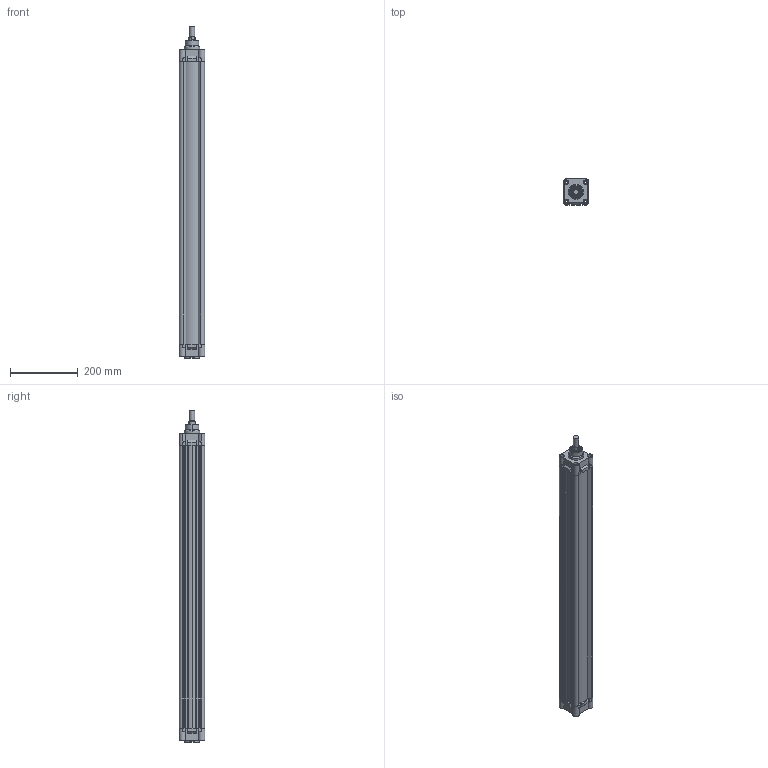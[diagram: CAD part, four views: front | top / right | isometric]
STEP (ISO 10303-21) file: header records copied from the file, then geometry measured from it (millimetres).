
FILE_DESCRIPTION (( 'STEP AP214' ), '1' );
FILE_NAME ('RIC_63_800_WEB.STEP', '2020-07-18T16:38:34', ( '' ), ( '' ), 'SwSTEP 2.0', 'SolidWorks 2018', '' );
FILE_SCHEMA (( 'AUTOMOTIVE_DESIGN' ));
Length unit declared in the file: millimetre
Products named in the file (7): ric63bogazkecesi; 63_BORU_WEB; RIC_63_800_WEB; ric63arkakapak; ric63yastikkecesi; 20_K_MIL_WEB; ric63onkapak
Assembly tree (7 placements, depth 2):
  RIC_63_800_WEB
    63_BORU_WEB
    ric63onkapak
    ric63arkakapak
    ric63bogazkecesi
    ric63yastikkecesi  x2
    20_K_MIL_WEB
Bounding box: 76 x 76 x 978 mm (x, y, z)
Volume: 1686722.8 mm3; surface area: 633069 mm2
Topology: 7 solids, 7 shells, 709 faces, 1751 edges, 1102 vertices
Faces by surface type: plane 280, cylinder 220, torus 134, cone 56, bspline 19
Entity records: 21075 total; most frequent: CARTESIAN_POINT 4906, DIRECTION 3090, ORIENTED_EDGE 2910, EDGE_CURVE 1455, AXIS2_PLACEMENT_3D 1135, VERTEX_POINT 925, LINE 820, VECTOR 820
